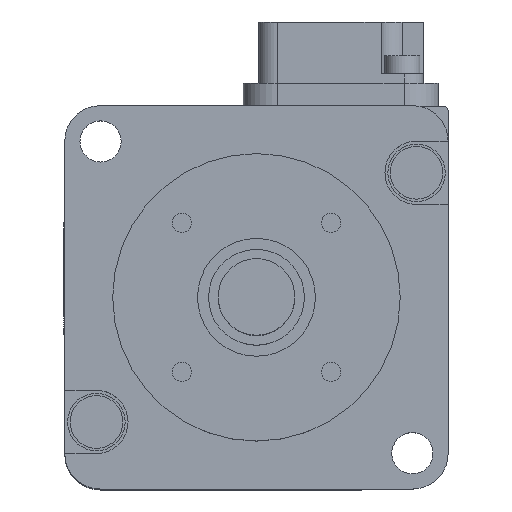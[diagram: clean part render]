
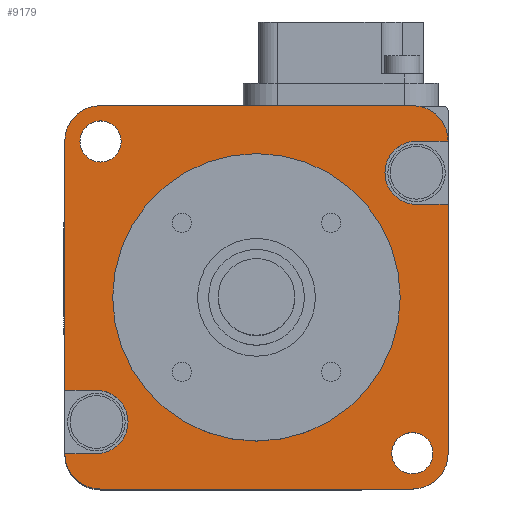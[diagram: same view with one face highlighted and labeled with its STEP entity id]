
A CAD part, top view. The second image highlights one B-rep face of the part: STEP entity #9179.
In plain terms, the highlighted planar face has unit normal (0, 0, 1).
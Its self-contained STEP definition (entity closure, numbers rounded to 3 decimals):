
#1608=CARTESIAN_POINT('',(-16.3,-16.3,56.5));
#1609=DIRECTION('',(0.,0.,1.));
#1610=DIRECTION('',(-1.,0.,0.));
#1611=AXIS2_PLACEMENT_3D('',#1608,#1609,#1610);
#1613=CARTESIAN_POINT('',(-16.7,-13.,56.5));
#1614=DIRECTION('',(0.,0.,-1.));
#1615=DIRECTION('',(0.,1.,0.));
#1616=AXIS2_PLACEMENT_3D('',#1613,#1614,#1615);
#1618=DIRECTION('',(0.,-1.,0.));
#1619=VECTOR('',#1618,26.);
#1620=CARTESIAN_POINT('',(-20.,16.3,56.5));
#1621=LINE('',#1620,#1619);
#1622=CARTESIAN_POINT('',(-16.3,16.3,56.5));
#1623=DIRECTION('',(0.,0.,1.));
#1624=DIRECTION('',(0.,1.,0.));
#1625=AXIS2_PLACEMENT_3D('',#1622,#1623,#1624);
#1627=DIRECTION('',(-1.,0.,0.));
#1628=VECTOR('',#1627,32.6);
#1629=CARTESIAN_POINT('',(16.3,20.,56.5));
#1630=LINE('',#1629,#1628);
#1631=CARTESIAN_POINT('',(16.3,16.3,56.5));
#1632=DIRECTION('',(0.,0.,1.));
#1633=DIRECTION('',(1.,0.,0.));
#1634=AXIS2_PLACEMENT_3D('',#1631,#1632,#1633);
#1636=CARTESIAN_POINT('',(16.7,13.,56.5));
#1637=DIRECTION('',(0.,0.,-1.));
#1638=DIRECTION('',(0.,-1.,0.));
#1639=AXIS2_PLACEMENT_3D('',#1636,#1637,#1638);
#1641=DIRECTION('',(0.,1.,0.));
#1642=VECTOR('',#1641,26.);
#1643=CARTESIAN_POINT('',(20.,-16.3,56.5));
#1644=LINE('',#1643,#1642);
#1645=CARTESIAN_POINT('',(16.3,-16.3,56.5));
#1646=DIRECTION('',(0.,0.,1.));
#1647=DIRECTION('',(0.,-1.,0.));
#1648=AXIS2_PLACEMENT_3D('',#1645,#1646,#1647);
#1650=DIRECTION('',(1.,0.,0.));
#1651=VECTOR('',#1650,32.6);
#1652=CARTESIAN_POINT('',(-16.3,-20.,56.5));
#1653=LINE('',#1652,#1651);
#1654=CARTESIAN_POINT('',(0.,0.,56.5));
#1655=DIRECTION('',(0.,0.,-1.));
#1656=DIRECTION('',(0.,1.,0.));
#1657=AXIS2_PLACEMENT_3D('',#1654,#1655,#1656);
#1659=CARTESIAN_POINT('',(0.,0.,56.5));
#1660=DIRECTION('',(0.,0.,-1.));
#1661=DIRECTION('',(0.,-1.,0.));
#1662=AXIS2_PLACEMENT_3D('',#1659,#1660,#1661);
#1664=CARTESIAN_POINT('',(-16.263,16.263,56.5));
#1665=DIRECTION('',(0.,0.,-1.));
#1666=DIRECTION('',(-1.,0.,0.));
#1667=AXIS2_PLACEMENT_3D('',#1664,#1665,#1666);
#1669=CARTESIAN_POINT('',(-16.263,16.263,56.5));
#1670=DIRECTION('',(0.,0.,-1.));
#1671=DIRECTION('',(1.,0.,0.));
#1672=AXIS2_PLACEMENT_3D('',#1669,#1670,#1671);
#1674=CARTESIAN_POINT('',(16.263,-16.263,56.5));
#1675=DIRECTION('',(0.,0.,-1.));
#1676=DIRECTION('',(-1.,0.,0.));
#1677=AXIS2_PLACEMENT_3D('',#1674,#1675,#1676);
#1679=CARTESIAN_POINT('',(16.263,-16.263,56.5));
#1680=DIRECTION('',(0.,0.,-1.));
#1681=DIRECTION('',(1.,0.,0.));
#1682=AXIS2_PLACEMENT_3D('',#1679,#1680,#1681);
#1684=DIRECTION('',(-1.,0.,0.));
#1685=VECTOR('',#1684,3.3);
#1686=CARTESIAN_POINT('',(-16.7,-16.3,56.5));
#1687=LINE('',#1686,#1685);
#1715=DIRECTION('',(1.,0.,0.));
#1716=VECTOR('',#1715,3.3);
#1717=CARTESIAN_POINT('',(-20.,-9.7,56.5));
#1718=LINE('',#1717,#1716);
#1789=DIRECTION('',(1.,0.,0.));
#1790=VECTOR('',#1789,3.3);
#1791=CARTESIAN_POINT('',(16.7,16.3,56.5));
#1792=LINE('',#1791,#1790);
#1816=DIRECTION('',(-1.,0.,0.));
#1817=VECTOR('',#1816,3.3);
#1818=CARTESIAN_POINT('',(20.,9.7,56.5));
#1819=LINE('',#1818,#1817);
#4600=CARTESIAN_POINT('',(0.,15.,56.5));
#4601=CARTESIAN_POINT('',(0.,-15.,56.5));
#4602=VERTEX_POINT('',#4600);
#4603=VERTEX_POINT('',#4601);
#4928=CARTESIAN_POINT('',(16.3,20.,56.5));
#4929=VERTEX_POINT('',#4928);
#4931=CARTESIAN_POINT('',(-16.3,20.,56.5));
#4933=VERTEX_POINT('',#4931);
#5119=CARTESIAN_POINT('',(20.,-16.3,56.5));
#5120=VERTEX_POINT('',#5119);
#5121=CARTESIAN_POINT('',(20.,9.7,56.5));
#5123=VERTEX_POINT('',#5121);
#5220=CARTESIAN_POINT('',(-16.3,-20.,56.5));
#5221=VERTEX_POINT('',#5220);
#5223=CARTESIAN_POINT('',(16.3,-20.,56.5));
#5225=VERTEX_POINT('',#5223);
#5236=CARTESIAN_POINT('',(-20.,16.3,56.5));
#5237=VERTEX_POINT('',#5236);
#5238=CARTESIAN_POINT('',(-20.,-9.7,56.5));
#5240=VERTEX_POINT('',#5238);
#5293=CARTESIAN_POINT('',(-14.113,16.263,56.5));
#5294=VERTEX_POINT('',#5293);
#5295=CARTESIAN_POINT('',(-18.413,16.263,56.5));
#5296=VERTEX_POINT('',#5295);
#5297=CARTESIAN_POINT('',(18.413,-16.263,56.5));
#5298=VERTEX_POINT('',#5297);
#5299=CARTESIAN_POINT('',(14.113,-16.263,56.5));
#5300=VERTEX_POINT('',#5299);
#5301=CARTESIAN_POINT('',(-20.,-16.3,56.5));
#5302=VERTEX_POINT('',#5301);
#5304=CARTESIAN_POINT('',(-16.7,-16.3,56.5));
#5306=VERTEX_POINT('',#5304);
#5345=CARTESIAN_POINT('',(16.7,9.7,56.5));
#5346=VERTEX_POINT('',#5345);
#5347=CARTESIAN_POINT('',(16.7,16.3,56.5));
#5348=VERTEX_POINT('',#5347);
#5349=CARTESIAN_POINT('',(20.,16.3,56.5));
#5350=VERTEX_POINT('',#5349);
#5351=CARTESIAN_POINT('',(-16.7,-9.7,56.5));
#5352=VERTEX_POINT('',#5351);
#9133=CARTESIAN_POINT('',(0.,0.,56.5));
#9134=DIRECTION('',(0.,0.,1.));
#9135=DIRECTION('',(0.,1.,0.));
#9136=AXIS2_PLACEMENT_3D('',#9133,#9134,#9135);
#9137=PLANE('',#9136);
#9138=ORIENTED_EDGE('',*,*,#8661,.F.);
#9140=ORIENTED_EDGE('',*,*,#9139,.F.);
#9142=ORIENTED_EDGE('',*,*,#9141,.F.);
#9144=ORIENTED_EDGE('',*,*,#9143,.F.);
#9145=ORIENTED_EDGE('',*,*,#8690,.F.);
#9147=ORIENTED_EDGE('',*,*,#9146,.F.);
#9148=ORIENTED_EDGE('',*,*,#8888,.F.);
#9149=ORIENTED_EDGE('',*,*,#8918,.F.);
#9151=ORIENTED_EDGE('',*,*,#9150,.F.);
#9153=ORIENTED_EDGE('',*,*,#9152,.F.);
#9155=ORIENTED_EDGE('',*,*,#9154,.F.);
#9156=ORIENTED_EDGE('',*,*,#8947,.F.);
#9157=ORIENTED_EDGE('',*,*,#9115,.F.);
#9158=ORIENTED_EDGE('',*,*,#8630,.F.);
#9159=EDGE_LOOP('',(#9138,#9140,#9142,#9144,#9145,#9147,#9148,#9149,#9151,#9153,
#9155,#9156,#9157,#9158));
#9160=FACE_OUTER_BOUND('',#9159,.F.);
#9162=ORIENTED_EDGE('',*,*,#9161,.F.);
#9164=ORIENTED_EDGE('',*,*,#9163,.F.);
#9165=EDGE_LOOP('',(#9162,#9164));
#9166=FACE_BOUND('',#9165,.F.);
#9168=ORIENTED_EDGE('',*,*,#9167,.F.);
#9170=ORIENTED_EDGE('',*,*,#9169,.F.);
#9171=EDGE_LOOP('',(#9168,#9170));
#9172=FACE_BOUND('',#9171,.F.);
#9174=ORIENTED_EDGE('',*,*,#9173,.F.);
#9176=ORIENTED_EDGE('',*,*,#9175,.F.);
#9177=EDGE_LOOP('',(#9174,#9176));
#9178=FACE_BOUND('',#9177,.F.);
#9179=ADVANCED_FACE('',(#9160,#9166,#9172,#9178),#9137,.T.);
#1612=CIRCLE('',#1611,3.7);
#1617=CIRCLE('',#1616,3.3);
#1626=CIRCLE('',#1625,3.7);
#1635=CIRCLE('',#1634,3.7);
#1640=CIRCLE('',#1639,3.3);
#1649=CIRCLE('',#1648,3.7);
#1658=CIRCLE('',#1657,15.);
#1663=CIRCLE('',#1662,15.);
#1668=CIRCLE('',#1667,2.15);
#1673=CIRCLE('',#1672,2.15);
#1678=CIRCLE('',#1677,2.15);
#1683=CIRCLE('',#1682,2.15);
#8630=EDGE_CURVE('',#5221,#5225,#1653,.T.);
#8661=EDGE_CURVE('',#5302,#5221,#1612,.T.);
#8690=EDGE_CURVE('',#5237,#5240,#1621,.T.);
#8888=EDGE_CURVE('',#4929,#4933,#1630,.T.);
#8918=EDGE_CURVE('',#5350,#4929,#1635,.T.);
#8947=EDGE_CURVE('',#5120,#5123,#1644,.T.);
#9115=EDGE_CURVE('',#5225,#5120,#1649,.T.);
#9139=EDGE_CURVE('',#5306,#5302,#1687,.T.);
#9141=EDGE_CURVE('',#5352,#5306,#1617,.T.);
#9143=EDGE_CURVE('',#5240,#5352,#1718,.T.);
#9146=EDGE_CURVE('',#4933,#5237,#1626,.T.);
#9150=EDGE_CURVE('',#5348,#5350,#1792,.T.);
#9152=EDGE_CURVE('',#5346,#5348,#1640,.T.);
#9154=EDGE_CURVE('',#5123,#5346,#1819,.T.);
#9161=EDGE_CURVE('',#4602,#4603,#1658,.T.);
#9163=EDGE_CURVE('',#4603,#4602,#1663,.T.);
#9167=EDGE_CURVE('',#5296,#5294,#1668,.T.);
#9169=EDGE_CURVE('',#5294,#5296,#1673,.T.);
#9173=EDGE_CURVE('',#5300,#5298,#1678,.T.);
#9175=EDGE_CURVE('',#5298,#5300,#1683,.T.);
